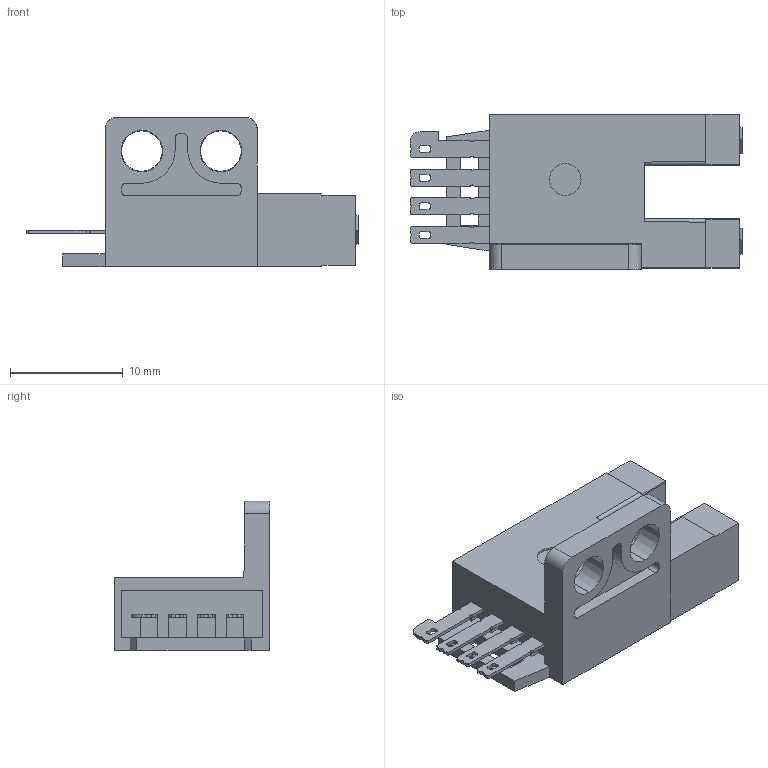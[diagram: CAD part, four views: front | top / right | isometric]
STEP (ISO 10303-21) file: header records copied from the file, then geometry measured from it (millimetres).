
FILE_DESCRIPTION((''),'2;1');
FILE_NAME('FF-U677QJ_ASM','2018-07-23T17:18:59',('Administrator'),(''),'CREO PARAMETRIC BY PTC INC, 2016390','CREO PARAMETRIC BY PTC INC, 2016390','');
FILE_SCHEMA(('CONFIG_CONTROL_DESIGN'));
Length unit declared in the file: millimetre
Products named in the file (5): FF-U677QJ; QIAJIAOGAI; 670000; WUJINQIAJIAO_ASM; FF-U677QJ_ASM
Assembly tree (4 placements, depth 3):
  FF-U677QJ_ASM
    FF-U677QJ
    WUJINQIAJIAO_ASM
      QIAJIAOGAI
      670000
Bounding box: 29.4 x 13.8 x 13.25 mm (x, y, z)
Volume: 1055.1 mm3; surface area: 2451.3 mm2
Topology: 6 solids, 6 shells, 221 faces, 626 edges, 417 vertices
Faces by surface type: plane 165, cylinder 52, cone 4
Entity records: 7369 total; most frequent: CARTESIAN_POINT 1393, ORIENTED_EDGE 1252, DIRECTION 1170, EDGE_CURVE 626, VECTOR 510, LINE 510, VERTEX_POINT 417, AXIS2_PLACEMENT_3D 330
